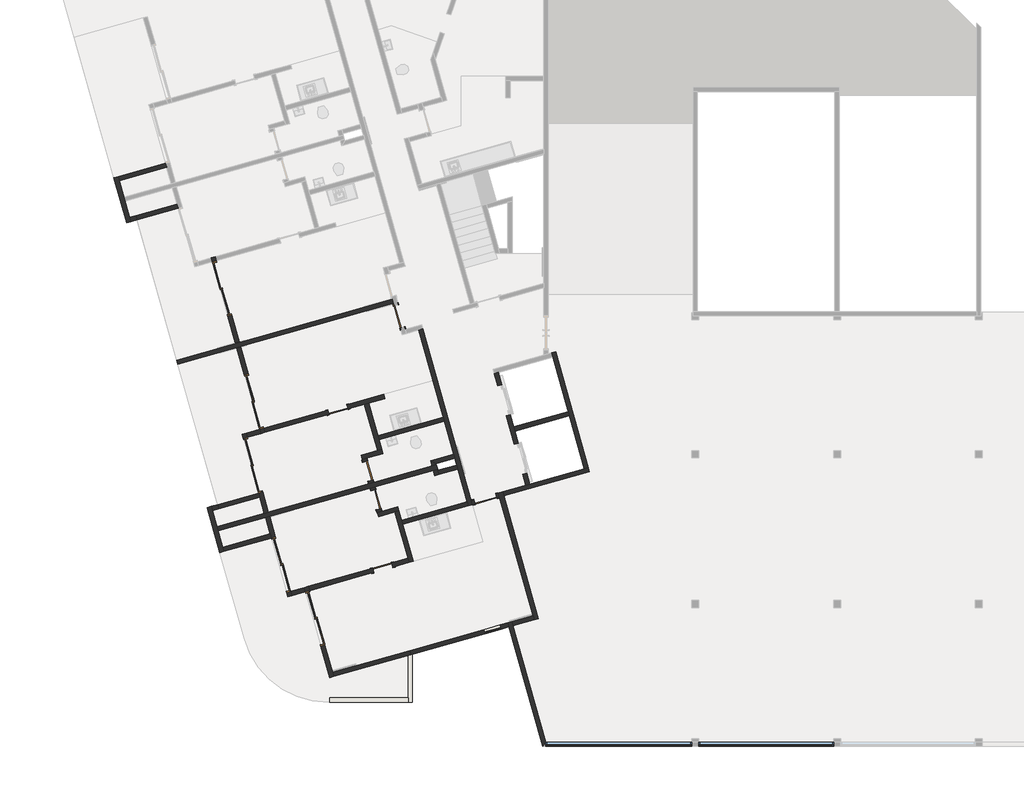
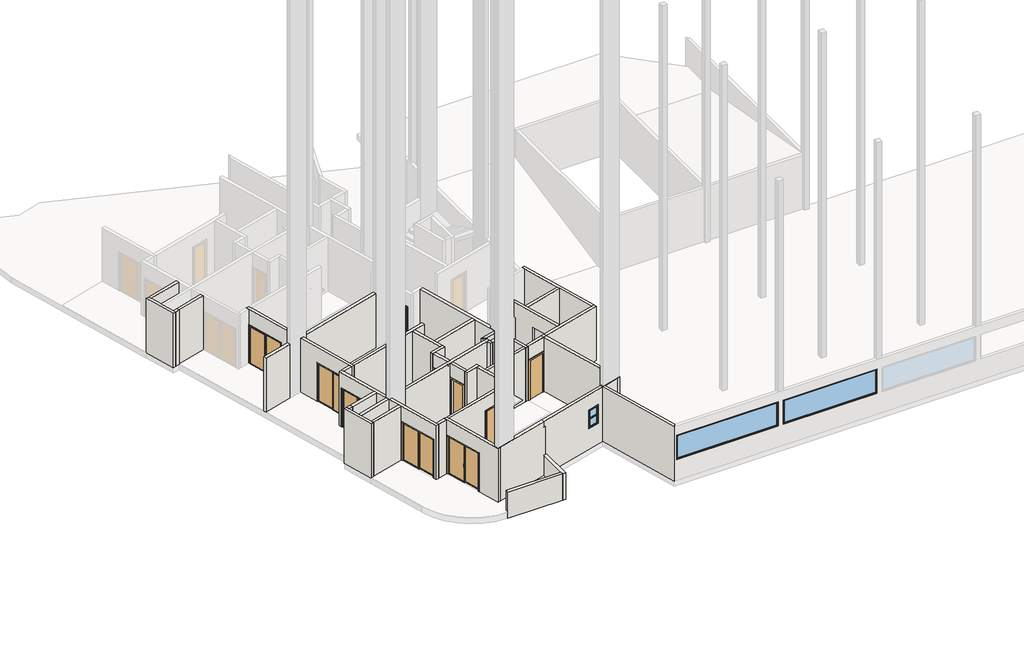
# One storey, part 1 of 4: 44 walls, 12 doors, 3 windows.
"""IFC4 building model written with IfcOpenShell, lengths in millimetres."""

from ifc_helpers import new_model, si_unit, frame, origin, place, context, project, spatial, polyline, outline, extrude, faceted_brep, transform, mapped, element, save
from components import p2_80cm_9d4be4ef, p2_80cm_083652d6, p3_70cm_ef4d15e3, p3_70cm_0a698c7c, p4_correr_200cm_eaaa0877, p4_correr_200cm_830b8f20, bx_60cm_cef95a5c, m_fixo1_jf_4_75m_a83b1cd6, m_fixo1_jf_5_15m_51e2bce7

model = new_model("IFC4")

# Units and contexts
model_context = context("Model", 3, world=origin())
ifc_project = project(units=[si_unit("LENGTHUNIT", "METRE", prefix="MILLI")], contexts=[model_context])

# Site, building, storey
site = spatial("IfcSite", under=ifc_project)
building = spatial("IfcBuilding", under=site)
storey = spatial("IfcBuildingStorey", under=building, Name="Garagem 5", Elevation=36250.0)

# Doors
placement = place(None, origin())
p2_80cm_shape = p2_80cm_9d4be4ef(model_context)
element("IfcDoor", 1, ObjectType="M_Folha única1 : P2 - 80CM", at=placement, inside=storey, context=model_context, shape_type="MappedRepresentation", body=[
    mapped(p2_80cm_shape, transform((-77213.6668366, 12144.847648, 36250.0), x_axis=(0.9623628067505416, 0.2717679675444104, 0.0), y_axis=(-0.2717679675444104, 0.9623628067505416, 0.0), z_axis=(0.0, 0.0, 1.0))),
])
element("IfcDoor", 2, ObjectType="M_Folha única1 : P2 - 80CM", at=placement, inside=storey, context=model_context, shape_type="MappedRepresentation", body=[
    mapped(p2_80cm_shape, transform((-77213.6668366, 12144.847648, 36250.0), x_axis=(0.9623628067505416, 0.2717679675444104, 0.0), y_axis=(-0.2717679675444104, 0.9623628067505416, 0.0), z_axis=(0.0, 0.0, 1.0))),
])
p2_80cm_2_shape = p2_80cm_083652d6(model_context)
element("IfcDoor", 3, ObjectType="M_Folha única1 : P2 - 80CM", at=placement, inside=storey, context=model_context, shape_type="MappedRepresentation", body=[
    mapped(p2_80cm_2_shape, transform((-80253.8125149, 18586.8251325, 36250.0), x_axis=(-0.2717679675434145, 0.9623628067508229, 0.0), y_axis=(-0.9623628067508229, -0.2717679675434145, 0.0), z_axis=(0.0, 0.0, 1.0))),
])
p3_70cm_shape = p3_70cm_ef4d15e3(model_context)
element("IfcDoor", 4, ObjectType="M_Folha única1 : P3 - 70CM", at=placement, inside=storey, context=model_context, shape_type="MappedRepresentation", body=[
    mapped(p3_70cm_shape, transform((-80840.7851368, 9718.5269225, 36250.0), x_axis=(0.9623628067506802, 0.2717679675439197, 0.0), y_axis=(-0.2717679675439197, 0.9623628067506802, 0.0), z_axis=(0.0, 0.0, 1.0))),
])
element("IfcDoor", 5, ObjectType="M_Folha única1 : P3 - 70CM", at=placement, inside=storey, context=model_context, shape_type="MappedRepresentation", body=[
    mapped(p3_70cm_shape, transform((-81362.5862327, 13130.1209218, 36250.0), x_axis=(0.271767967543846, -0.9623628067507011, 0.0), y_axis=(0.9623628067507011, 0.271767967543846, 0.0), z_axis=(0.0, 0.0, 1.0))),
])
p3_70cm_2_shape = p3_70cm_0a698c7c(model_context)
element("IfcDoor", 6, ObjectType="M_Folha única1 : P3 - 70CM", at=placement, inside=storey, context=model_context, shape_type="MappedRepresentation", body=[
    mapped(p3_70cm_2_shape, transform((-81077.2298668, 12119.6399747, 36250.0), x_axis=(-0.27176796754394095, 0.9623628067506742, 0.0), y_axis=(-0.9623628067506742, -0.27176796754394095, 0.0), z_axis=(0.0, 0.0, 1.0))),
])
element("IfcDoor", 7, ObjectType="M_Folha única1 : P3 - 70CM", at=placement, inside=storey, context=model_context, shape_type="MappedRepresentation", body=[
    mapped(p3_70cm_2_shape, transform((-82417.0393485, 15300.2312016, 36250.0), x_axis=(0.9623628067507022, 0.27176796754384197, 0.0), y_axis=(-0.27176796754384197, 0.9623628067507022, 0.0), z_axis=(0.0, 0.0, 1.0))),
])
p4_correr_200cm_shape = p4_correr_200cm_eaaa0877(model_context)
element("IfcDoor", 8, ObjectType="Porta de correr dupla envidraçada sem revestimento : P4 - CORRER - 200CM", at=placement, inside=storey, context=model_context, shape_type="MappedRepresentation", body=[
    mapped(p4_correr_200cm_shape, transform((-86511.4049952, 19573.3416554, 36250.0), x_axis=(0.2717679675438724, -0.9623628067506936, 0.0), y_axis=(0.9623628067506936, 0.2717679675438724, 0.0), z_axis=(0.0, 0.0, 1.0))),
])
element("IfcDoor", 9, ObjectType="Porta de correr dupla envidraçada sem revestimento : P4 - CORRER - 200CM", at=placement, inside=storey, context=model_context, shape_type="MappedRepresentation", body=[
    mapped(p4_correr_200cm_shape, transform((-84429.028315, 9822.2616509, 36250.0), x_axis=(-0.27176796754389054, 0.9623628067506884, 0.0), y_axis=(-0.9623628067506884, -0.27176796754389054, 0.0), z_axis=(0.0, 0.0, 1.0))),
])
element("IfcDoor", 10, ObjectType="Porta de correr dupla envidraçada sem revestimento : P4 - CORRER - 200CM", at=placement, inside=storey, context=model_context, shape_type="MappedRepresentation", body=[
    mapped(p4_correr_200cm_shape, transform((-83223.012588, 7928.7516937, 36250.0), x_axis=(-0.2717679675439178, 0.9623628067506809, 0.0), y_axis=(-0.9623628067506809, -0.2717679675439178, 0.0), z_axis=(0.0, 0.0, 1.0))),
])
p4_correr_200cm_2_shape = p4_correr_200cm_830b8f20(model_context)
element("IfcDoor", 11, ObjectType="Porta de correr dupla envidraçada sem revestimento : P4 - CORRER - 200CM", at=placement, inside=storey, context=model_context, shape_type="MappedRepresentation", body=[
    mapped(p4_correr_200cm_2_shape, transform((-85383.5679299, 15579.5360073, 36250.0), x_axis=(-0.2717679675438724, 0.9623628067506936, 0.0), y_axis=(-0.9623628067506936, -0.2717679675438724, 0.0), z_axis=(0.0, 0.0, 1.0))),
])
element("IfcDoor", 12, ObjectType="Porta de correr dupla envidraçada sem revestimento : P4 - CORRER - 200CM", at=placement, inside=storey, context=model_context, shape_type="MappedRepresentation", body=[
    mapped(p4_correr_200cm_2_shape, transform((-85420.9813965, 13334.8858955, 36250.0), x_axis=(-0.27176796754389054, 0.9623628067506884, 0.0), y_axis=(-0.9623628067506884, -0.27176796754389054, 0.0), z_axis=(0.0, 0.0, 1.0))),
])

# Walls
element("IfcWall", 13, ObjectType="Básica .15 -  Interna", at=placement, inside=storey, context=model_context, shape_type="Brep", body=[
    faceted_brep([(-75344.9919691, 7919.3931149, 36250.0), (-76608.5136097, 12393.6740374, 36250.0), (-76608.5136097, 12393.6740374, 39150.0), (-75344.9919691, 7919.3931149, 39150.0), (-75489.3463901, 7878.6279198, 36250.0), (-75489.3463901, 7878.6279198, 39150.0), (-75530.1115852, 8022.9823408, 39150.0), (-76712.1028356, 12208.5544213, 39150.0), (-76752.8680308, 12352.9088423, 39150.0), (-76752.8680308, 12352.9088423, 36250.0), (-76712.1028356, 12208.5544213, 36250.0), (-75530.1115852, 8022.9823408, 36250.0)], [[[0, 1, 2, 3]], [[4, 5, 6, 7, 8, 9, 10, 11]], [[1, 0, 4, 11, 10, 9]], [[3, 2, 8, 7, 6, 5]], [[0, 3, 5, 4]], [[2, 1, 9, 8]]]),
])
element("IfcWall", 14, ObjectType="Básica .15 -  Interna", at=placement, inside=storey, context=model_context, shape_type="Brep", body=[
    faceted_brep([(-79571.9228624, 18103.967491, 36250.0), (-78702.2653663, 15024.4065094, 36250.0), (-78661.5001712, 14880.0520884, 36250.0), (-78335.3786101, 13725.2167203, 36250.0), (-78294.613415, 13580.8622993, 36250.0), (-78226.6714231, 13340.2715976, 36250.0), (-78185.906228, 13195.9171766, 36250.0), (-77818.8200634, 11896.0212586, 36250.0), (-77818.8200634, 11896.0212586, 39150.0), (-78185.906228, 13195.9171766, 39150.0), (-78226.6714231, 13340.2715976, 39150.0), (-78294.613415, 13580.8622993, 39150.0), (-78335.3786101, 13725.2167203, 39150.0), (-78661.5001712, 14880.0520884, 39150.0), (-78702.2653663, 15024.4065094, 39150.0), (-79571.9228624, 18103.967491, 39150.0), (-79427.5684414, 18144.7326862, 36250.0), (-79427.5684414, 18144.7326862, 39150.0), (-77715.2308375, 12081.1408747, 39150.0), (-77674.4656424, 11936.7864537, 39150.0), (-77674.4656424, 11936.7864537, 36250.0), (-77715.2308375, 12081.1408747, 36250.0)], [[[0, 1, 2, 3, 4, 5, 6, 7, 8, 9, 10, 11, 12, 13, 14, 15]], [[16, 17, 18, 19, 20, 21]], [[7, 6, 5, 4, 3, 2, 1, 0, 16, 21, 20]], [[15, 14, 13, 12, 11, 10, 9, 8, 19, 18, 17]], [[0, 15, 17, 16]], [[8, 7, 20, 19]]]),
])
element("IfcWall", 15, ObjectType="Básica .15 -  Interna", at=placement, inside=storey, context=model_context, shape_type="Brep", body=[
    faceted_brep([(-85017.5646639, 11630.3683862, 39150.0), (-85180.6254444, 12207.7860702, 39150.0), (-85221.3906395, 12352.1404912, 39150.0), (-85805.6917697, 14421.2205257, 39150.0), (-85805.6917697, 14421.2205257, 36250.0), (-85764.9265746, 14276.8661047, 36250.0), (-85764.9265746, 14276.8661047, 38350.0), (-85221.3906395, 12352.1404912, 38350.0), (-85221.3906395, 12352.1404912, 36250.0), (-85180.6254444, 12207.7860702, 36250.0), (-85017.5646639, 11630.3683862, 36250.0), (-85661.3373487, 14461.9857209, 39150.0), (-85620.5721536, 14317.6312998, 39150.0), (-84873.2102428, 11671.1335813, 39150.0), (-84873.2102428, 11671.1335813, 36250.0), (-85077.0362185, 12392.9056863, 36250.0), (-85077.0362185, 12392.9056863, 38350.0), (-85620.5721536, 14317.6312998, 38350.0), (-85620.5721536, 14317.6312998, 36250.0), (-85661.3373487, 14461.9857209, 36250.0)], [[[0, 1, 2, 3, 4, 5, 6, 7, 8, 9, 10]], [[11, 12, 13, 14, 15, 16, 17, 18, 19]], [[4, 19, 18, 5]], [[14, 10, 9, 8, 15]], [[3, 2, 1, 0, 13, 12, 11]], [[4, 3, 11, 19]], [[0, 10, 14, 13]], [[17, 6, 5, 18]], [[6, 17, 16, 7]], [[7, 16, 15, 8]]]),
])
element("IfcWall", 16, ObjectType="Básica .15 -  Interna", at=placement, inside=storey, context=model_context, shape_type="Brep", body=[
    faceted_brep([(-82710.8886682, 5839.2890616, 39150.0), (-83566.957766, 8870.7319029, 39150.0), (-83607.7229611, 9015.0863239, 39150.0), (-83607.7229611, 9015.0863239, 36250.0), (-83566.957766, 8870.7319029, 36250.0), (-83566.957766, 8870.7319029, 38350.0), (-83023.4218309, 6946.0062894, 38350.0), (-83023.4218309, 6946.0062894, 36250.0), (-82710.8886682, 5839.2890616, 36250.0), (-83463.3685401, 9055.851519, 39150.0), (-83422.603345, 8911.497098, 39150.0), (-82607.2994424, 6024.4086777, 39150.0), (-82566.5342472, 5880.0542567, 39150.0), (-82566.5342472, 5880.0542567, 36250.0), (-82607.2994424, 6024.4086777, 36250.0), (-82879.0674099, 6986.7714845, 36250.0), (-82879.0674099, 6986.7714845, 38350.0), (-83422.603345, 8911.497098, 38350.0), (-83422.603345, 8911.497098, 36250.0), (-83463.3685401, 9055.851519, 36250.0)], [[[0, 1, 2, 3, 4, 5, 6, 7, 8]], [[9, 10, 11, 12, 13, 14, 15, 16, 17, 18, 19]], [[3, 19, 18, 4]], [[13, 8, 7, 15, 14]], [[2, 1, 0, 12, 11, 10, 9]], [[3, 2, 9, 19]], [[0, 8, 13, 12]], [[17, 5, 4, 18]], [[5, 17, 16, 6]], [[6, 16, 15, 7]]]),
])
element("IfcWall", 17, ObjectType="Básica .15 -  Interna", at=placement, inside=storey, context=model_context, shape_type="Brep", body=[
    faceted_brep([(-86046.8404698, 17652.2925145, 36250.0), (-86046.8404698, 17652.2925145, 39150.0), (-86855.3501733, 20515.3218646, 39150.0), (-86896.1153684, 20659.6762856, 39150.0), (-86896.1153684, 20659.6762856, 36250.0), (-86855.3501733, 20515.3218646, 36250.0), (-86855.3501733, 20515.3218646, 38350.0), (-86311.8142382, 18590.596251, 38350.0), (-86311.8142382, 18590.596251, 36250.0), (-85902.4860488, 17693.0577096, 39150.0), (-85902.4860488, 17693.0577096, 36250.0), (-86167.4598172, 18631.3614462, 36250.0), (-86167.4598172, 18631.3614462, 38350.0), (-86710.9957523, 20556.0870597, 38350.0), (-86710.9957523, 20556.0870597, 36250.0), (-86751.7609474, 20700.4414807, 36250.0), (-86751.7609474, 20700.4414807, 39150.0), (-86710.9957523, 20556.0870597, 39150.0)], [[[0, 1, 2, 3, 4, 5, 6, 7, 8]], [[9, 10, 11, 12, 13, 14, 15, 16, 17]], [[10, 0, 8, 11]], [[4, 15, 14, 5]], [[1, 0, 10, 9]], [[3, 2, 1, 9, 17, 16]], [[4, 3, 16, 15]], [[7, 12, 11, 8]], [[12, 7, 6, 13]], [[13, 6, 5, 14]]]),
])
element("IfcWall", 18, ObjectType="Básica .15 - Externa", at=placement, inside=storey, context=model_context, shape_type="Brep", body=[
    faceted_brep([(-79945.4990038, 6620.2256515, 35950.0), (-79945.4990038, 5119.4122055, 35950.0), (-79945.4990038, 4969.4122055, 35950.0), (-79945.4990038, 4969.4122055, 37350.0), (-79945.4990038, 5119.4122055, 37350.0), (-79945.4990038, 6620.2256515, 37350.0), (-79795.4990038, 6662.5851389, 35950.0), (-79795.4990038, 6662.5851389, 37350.0), (-79795.4990038, 4969.4122055, 37350.0), (-79795.4990038, 4969.4122055, 35950.0)], [[[0, 1, 2, 3, 4, 5]], [[6, 7, 8, 9]], [[2, 1, 0, 6, 9]], [[5, 4, 3, 8, 7]], [[3, 2, 9, 8]], [[0, 5, 7, 6]]]),
])
element("IfcWall", 19, ObjectType="Básica .15 - Externa", at=placement, inside=storey, context=model_context, shape_type="SweptSolid", body=[
    extrude(outline(polyline([(-82713.5540687, 5119.4122055), (-79945.4990038, 5119.4122055), (-79945.4990038, 4969.4122055), (-82713.5540687, 4969.4122055), (-82713.5540687, 5119.4122055)])), frame((0.0, 0.0, 35950.0), z_axis=(0.0, 0.0, 1.0), x_axis=(1.0, 0.0, 0.0)), (0.0, 0.0, 1.0), 1400.0),
])
element("IfcWall", 20, ObjectType="Básica .15 -  Interna", at=placement, inside=storey, context=model_context, shape_type="Brep", body=[
    faceted_brep([(-76483.167581, 15077.4768805, 36250.0), (-76197.8112151, 14066.9959334, 36250.0), (-76197.8112151, 14066.9959334, 38375.0), (-75898.8664508, 13008.396846, 38375.0), (-75898.8664508, 13008.396846, 36250.0), (-75790.505224, 12624.6768098, 36250.0), (-75790.505224, 12624.6768098, 39150.0), (-76904.7538909, 16570.3643175, 39150.0), (-76904.7538909, 16570.3643175, 36250.0), (-76782.1123453, 16136.075968, 36250.0), (-76782.1123453, 16136.075968, 38375.0), (-76483.167581, 15077.4768805, 38375.0), (-76053.4567941, 14107.7611286, 38375.0), (-76053.4567941, 14107.7611286, 36250.0), (-76176.0983397, 14542.0494781, 36250.0), (-76216.8635348, 14686.4038991, 36250.0), (-76338.81316, 15118.2420757, 36250.0), (-76338.81316, 15118.2420757, 38375.0), (-76637.7579243, 16176.8411631, 38375.0), (-76637.7579243, 16176.8411631, 36250.0), (-76760.3994699, 16611.1295126, 36250.0), (-76760.3994699, 16611.1295126, 39150.0), (-76216.8635348, 14686.4038991, 39150.0), (-76176.0983397, 14542.0494781, 39150.0), (-75646.150803, 12665.442005, 39150.0), (-75646.150803, 12665.442005, 36250.0), (-75754.5120298, 13049.1620412, 36250.0), (-75754.5120298, 13049.1620412, 38375.0)], [[[0, 1, 2, 3, 4, 5, 6, 7, 8, 9, 10, 11]], [[12, 13, 14, 15, 16, 17, 18, 19, 20, 21, 22, 23, 24, 25, 26, 27]], [[9, 8, 20, 19]], [[26, 25, 5, 4]], [[16, 15, 14, 13, 1, 0]], [[7, 6, 24, 23, 22, 21]], [[8, 7, 21, 20]], [[4, 3, 27, 26]], [[2, 1, 13, 12]], [[3, 2, 12, 27]], [[19, 18, 10, 9]], [[17, 16, 0, 11]], [[18, 17, 11, 10]], [[6, 5, 25, 24]]]),
])
element("IfcWall", 21, ObjectType="Básica .15 -  Interna", at=placement, inside=storey, context=model_context, shape_type="SweptSolid", body=[
    extrude(outline(polyline([(-74256.1845402, 15084.2265734), (-76176.0983397, 14542.0494781), (-76216.8635348, 14686.4038991), (-74296.9497354, 15228.5809944), (-74256.1845402, 15084.2265734)])), frame((0.0, 0.0, 36250.0), z_axis=(0.0, 0.0, 1.0), x_axis=(1.0, 0.0, 0.0)), (0.0, 0.0, 1.0), 2900.0),
])
element("IfcWall", 22, ObjectType="Básica .15 -  Interna", at=placement, inside=storey, context=model_context, shape_type="Brep", body=[
    faceted_brep([(-82566.5342472, 5880.0542567, 36250.0), (-79850.1164062, 6647.1613711, 36250.0), (-79850.1164062, 6647.1613711, 38850.0), (-79945.4990038, 6620.2256515, 38850.0), (-79945.4990038, 6620.2256515, 39150.0), (-82566.5342472, 5880.0542567, 39150.0), (-82607.2994424, 6024.4086777, 36250.0), (-82607.2994424, 6024.4086777, 39150.0), (-79945.4990038, 6776.0920243, 39150.0), (-79945.4990038, 6776.0920243, 38850.0), (-79890.8816014, 6791.5157921, 38850.0), (-79890.8816014, 6791.5157921, 36250.0)], [[[0, 1, 2, 3, 4, 5]], [[6, 7, 8, 9, 10, 11]], [[1, 0, 6, 11]], [[5, 4, 8, 7]], [[0, 5, 7, 6]], [[1, 11, 10, 2]], [[9, 3, 2, 10]], [[4, 3, 9, 8]]]),
])
element("IfcWall", 23, ObjectType="Básica .15 -  Interna", at=placement, inside=storey, context=model_context, shape_type="Brep", body=[
    faceted_brep([(-85221.3906395, 12352.1404912, 36250.0), (-86668.7560772, 11943.4094383, 36250.0), (-86668.7560772, 11943.4094383, 39150.0), (-85221.3906395, 12352.1404912, 39150.0), (-85221.3906395, 12352.1404912, 38350.0), (-85180.6254444, 12207.7860702, 36250.0), (-85180.6254444, 12207.7860702, 39150.0), (-86627.9908821, 11799.0550173, 39150.0), (-86627.9908821, 11799.0550173, 36250.0)], [[[0, 1, 2, 3, 4]], [[5, 6, 7, 8]], [[1, 0, 5, 8]], [[2, 1, 8, 7]], [[3, 2, 7, 6]], [[0, 4, 3, 6, 5]]]),
])
element("IfcWall", 24, ObjectType="Básica .15 - Externa", at=placement, inside=storey, context=model_context, shape_type="Brep", body=[
    faceted_brep([(-86444.4738537, 10292.215871, 36250.0), (-86485.2390488, 10436.570292, 36250.0), (-86648.2998293, 11013.987976, 36250.0), (-86689.0650245, 11158.342397, 36250.0), (-86852.125805, 11735.7600811, 36250.0), (-86892.8910001, 11880.1145021, 36250.0), (-86892.8910001, 11880.1145021, 39150.0), (-86852.125805, 11735.7600811, 39150.0), (-86689.0650245, 11158.342397, 39150.0), (-86648.2998293, 11013.987976, 39150.0), (-86485.2390488, 10436.570292, 39150.0), (-86444.4738537, 10292.215871, 39150.0), (-86588.8282747, 10251.4506758, 36250.0), (-86588.8282747, 10251.4506758, 39150.0), (-87037.2454211, 11839.349307, 39150.0), (-87037.2454211, 11839.349307, 36250.0)], [[[0, 1, 2, 3, 4, 5, 6, 7, 8, 9, 10, 11]], [[12, 13, 14, 15]], [[5, 4, 3, 2, 1, 0, 12, 15]], [[11, 10, 9, 8, 7, 6, 14, 13]], [[6, 5, 15, 14]], [[0, 11, 13, 12]]]),
])
element("IfcWall", 25, ObjectType="Básica .15 -  Interna", at=placement, inside=storey, context=model_context, shape_type="Brep", body=[
    faceted_brep([(-86444.4738537, 10292.215871, 36250.0), (-84772.9734931, 10764.2418601, 36250.0), (-84772.9734931, 10764.2418601, 38350.0), (-84772.9734931, 10764.2418601, 39150.0), (-86444.4738537, 10292.215871, 39150.0), (-86485.2390488, 10436.570292, 36250.0), (-86485.2390488, 10436.570292, 39150.0), (-84813.7386882, 10908.5962811, 39150.0), (-84813.7386882, 10908.5962811, 36250.0)], [[[0, 1, 2, 3, 4]], [[5, 6, 7, 8]], [[1, 0, 5, 8]], [[4, 3, 7, 6]], [[0, 4, 6, 5]], [[3, 2, 1, 8, 7]]]),
])
element("IfcWall", 26, ObjectType="Básica .15 - Externa", at=placement, inside=storey, context=model_context, shape_type="Brep", body=[
    faceted_brep([(-89732.866261, 21936.8058326, 36250.0), (-89773.6314561, 22081.1602536, 36250.0), (-89936.6922366, 22658.5779377, 36250.0), (-89977.4574318, 22802.9323587, 36250.0), (-90140.5182123, 23380.3500428, 36250.0), (-90181.2834074, 23524.7044638, 36250.0), (-90181.2834074, 23524.7044638, 39150.0), (-90140.5182123, 23380.3500428, 39150.0), (-89977.4574318, 22802.9323587, 39150.0), (-89936.6922366, 22658.5779377, 39150.0), (-89773.6314561, 22081.1602536, 39150.0), (-89732.866261, 21936.8058326, 39150.0), (-89877.220682, 21896.0406375, 36250.0), (-89877.220682, 21896.0406375, 39150.0), (-90325.6378284, 23483.9392686, 39150.0), (-90325.6378284, 23483.9392686, 36250.0)], [[[0, 1, 2, 3, 4, 5, 6, 7, 8, 9, 10, 11]], [[12, 13, 14, 15]], [[5, 4, 3, 2, 1, 0, 12, 15]], [[11, 10, 9, 8, 7, 6, 14, 13]], [[0, 11, 13, 12]], [[6, 5, 15, 14]]]),
])
element("IfcWall", 27, ObjectType="Básica .15 -  Interna", at=placement, inside=storey, context=model_context, shape_type="Brep", body=[
    faceted_brep([(-88102.1310955, 22553.1862428, 36250.0), (-89549.4965332, 22144.4551899, 36250.0), (-89549.4965332, 22144.4551899, 39150.0), (-88102.1310955, 22553.1862428, 39150.0), (-88061.3659003, 22408.8318218, 36250.0), (-88061.3659003, 22408.8318218, 38350.0), (-88061.3659003, 22408.8318218, 39150.0), (-89508.731338, 22000.1007688, 39150.0), (-89508.731338, 22000.1007688, 36250.0)], [[[0, 1, 2, 3]], [[4, 5, 6, 7, 8]], [[1, 0, 4, 8]], [[2, 1, 8, 7]], [[3, 2, 7, 6]], [[0, 3, 6, 5, 4]]]),
])
element("IfcWall", 28, ObjectType="Básica .15 -  Interna", at=placement, inside=storey, context=model_context, shape_type="Brep", body=[
    faceted_brep([(-90140.5182123, 23380.3500428, 36250.0), (-88469.0178517, 23852.3760319, 36250.0), (-88469.0178517, 23852.3760319, 39150.0), (-90140.5182123, 23380.3500428, 39150.0), (-90181.2834074, 23524.7044638, 36250.0), (-90181.2834074, 23524.7044638, 39150.0), (-88509.7830468, 23996.7304529, 39150.0), (-88509.7830468, 23996.7304529, 38350.0), (-88509.7830468, 23996.7304529, 36250.0)], [[[0, 1, 2, 3]], [[4, 5, 6, 7, 8]], [[1, 0, 4, 8]], [[3, 2, 6, 5]], [[0, 3, 5, 4]], [[2, 1, 8, 7, 6]]]),
])
element("IfcWall", 29, ObjectType="Básica .15 -  Interna", at=placement, inside=storey, context=model_context, shape_type="Brep", body=[
    faceted_brep([(-83607.7229611, 9015.0863239, 36250.0), (-84085.083137, 8880.2814417, 36250.0), (-84085.083137, 8880.2814417, 38350.0), (-84085.083137, 8880.2814417, 39150.0), (-83607.7229611, 9015.0863239, 39150.0), (-83566.957766, 8870.7319029, 36250.0), (-83566.957766, 8870.7319029, 38350.0), (-83566.957766, 8870.7319029, 39150.0), (-84044.3179418, 8735.9270207, 39150.0), (-84044.3179418, 8735.9270207, 36250.0)], [[[0, 1, 2, 3, 4]], [[5, 6, 7, 8, 9]], [[1, 0, 5, 9]], [[4, 3, 8, 7]], [[3, 2, 1, 9, 8]], [[0, 4, 7, 6, 5]]]),
])
element("IfcWall", 30, ObjectType="Básica .15 -  Interna", at=placement, inside=storey, context=model_context, shape_type="Brep", body=[
    faceted_brep([(-85183.9771729, 14596.790603, 36250.0), (-85661.3373487, 14461.9857209, 36250.0), (-85661.3373487, 14461.9857209, 39150.0), (-85183.9771729, 14596.790603, 39150.0), (-85183.9771729, 14596.790603, 38350.0), (-85143.2119778, 14452.436182, 36250.0), (-85143.2119778, 14452.436182, 39150.0), (-85620.5721536, 14317.6312998, 39150.0), (-85620.5721536, 14317.6312998, 38350.0), (-85620.5721536, 14317.6312998, 36250.0)], [[[0, 1, 2, 3, 4]], [[5, 6, 7, 8, 9]], [[1, 0, 5, 9]], [[3, 2, 7, 6]], [[2, 1, 9, 8, 7]], [[0, 4, 3, 6, 5]]]),
])
element("IfcWall", 31, ObjectType="Básica .15 -  Interna", at=placement, inside=storey, context=model_context, shape_type="Brep", body=[
    faceted_brep([(-85143.2119778, 14452.436182, 39150.0), (-85183.9771729, 14596.790603, 39150.0), (-85992.4868763, 17459.8199531, 39150.0), (-85992.4868763, 17459.8199531, 36250.0), (-85727.513108, 16521.5162165, 36250.0), (-85727.513108, 16521.5162165, 38350.0), (-85183.9771729, 14596.790603, 38350.0), (-85183.9771729, 14596.790603, 36250.0), (-85143.2119778, 14452.436182, 36250.0), (-85848.1324553, 17500.5851482, 39150.0), (-85039.6227519, 14637.5557982, 39150.0), (-84998.8575568, 14493.2013772, 39150.0), (-84998.8575568, 14493.2013772, 36250.0), (-85039.6227519, 14637.5557982, 36250.0), (-85039.6227519, 14637.5557982, 38350.0), (-85583.158687, 16562.2814117, 38350.0), (-85583.158687, 16562.2814117, 36250.0), (-85848.1324553, 17500.5851482, 36250.0)], [[[0, 1, 2, 3, 4, 5, 6, 7, 8]], [[9, 10, 11, 12, 13, 14, 15, 16, 17]], [[3, 17, 16, 4]], [[12, 8, 7, 13]], [[2, 1, 0, 11, 10, 9]], [[3, 2, 9, 17]], [[0, 8, 12, 11]], [[15, 5, 4, 16]], [[5, 15, 14, 6]], [[6, 14, 13, 7]]]),
])
element("IfcWall", 32, ObjectType="Básica .15 -  Interna", at=placement, inside=storey, context=model_context, shape_type="SweptSolid", body=[
    extrude(outline(polyline([(-80461.8737092, 19047.6239383), (-88068.36111, 16899.5778931), (-88109.1263052, 17043.9323141), (-80502.6389043, 19191.9783593), (-80461.8737092, 19047.6239383)])), frame((0.0, 0.0, 36250.0), z_axis=(0.0, 0.0, 1.0), x_axis=(1.0, 0.0, 0.0)), (0.0, 0.0, 1.0), 2900.0),
])
element("IfcWall", 33, ObjectType="Básica .15 -  Interna", at=placement, inside=storey, context=model_context, shape_type="Brep", body=[
    faceted_brep([(-78945.0553533, 13345.2242614, 36250.0), (-81168.1134369, 12717.4402563, 36250.0), (-81312.4678579, 12676.6750612, 36250.0), (-84873.2102428, 11671.1335813, 36250.0), (-85017.5646639, 11630.3683862, 36250.0), (-86689.0650245, 11158.342397, 36250.0), (-86689.0650245, 11158.342397, 39150.0), (-85017.5646639, 11630.3683862, 39150.0), (-84873.2102428, 11671.1335813, 39150.0), (-81312.4678579, 12676.6750612, 39150.0), (-81168.1134369, 12717.4402563, 39150.0), (-78945.0553533, 13345.2242614, 39150.0), (-78904.2901581, 13200.8698403, 36250.0), (-78904.2901581, 13200.8698403, 39150.0), (-81127.3482417, 12573.0858353, 39150.0), (-81271.7026627, 12532.3206402, 39150.0), (-84832.4450477, 11526.7791603, 39150.0), (-84976.7994687, 11486.0139651, 39150.0), (-86648.2998293, 11013.987976, 39150.0), (-86648.2998293, 11013.987976, 36250.0), (-84976.7994687, 11486.0139651, 36250.0), (-84832.4450477, 11526.7791603, 36250.0), (-81271.7026627, 12532.3206402, 36250.0), (-81127.3482417, 12573.0858353, 36250.0)], [[[0, 1, 2, 3, 4, 5, 6, 7, 8, 9, 10, 11]], [[12, 13, 14, 15, 16, 17, 18, 19, 20, 21, 22, 23]], [[5, 4, 3, 2, 1, 0, 12, 23, 22, 21, 20, 19]], [[11, 10, 9, 8, 7, 6, 18, 17, 16, 15, 14, 13]], [[0, 11, 13, 12]], [[6, 5, 19, 18]]]),
])
element("IfcWall", 34, ObjectType="Básica .15 -  Interna", at=placement, inside=storey, context=model_context, shape_type="Brep", body=[
    faceted_brep([(-84188.6723628, 8695.1618256, 39150.0), (-84772.9734931, 10764.2418601, 39150.0), (-84813.7386882, 10908.5962811, 39150.0), (-84976.7994687, 11486.0139651, 39150.0), (-84976.7994687, 11486.0139651, 36250.0), (-84813.7386882, 10908.5962811, 36250.0), (-84772.9734931, 10764.2418601, 36250.0), (-84772.9734931, 10764.2418601, 38350.0), (-84229.437558, 8839.5162466, 38350.0), (-84229.437558, 8839.5162466, 36250.0), (-84188.6723628, 8695.1618256, 36250.0), (-84832.4450477, 11526.7791603, 39150.0), (-84085.083137, 8880.2814417, 39150.0), (-84044.3179418, 8735.9270207, 39150.0), (-84044.3179418, 8735.9270207, 36250.0), (-84085.083137, 8880.2814417, 36250.0), (-84085.083137, 8880.2814417, 38350.0), (-84628.6190721, 10805.0070552, 38350.0), (-84628.6190721, 10805.0070552, 36250.0), (-84832.4450477, 11526.7791603, 36250.0)], [[[0, 1, 2, 3, 4, 5, 6, 7, 8, 9, 10]], [[11, 12, 13, 14, 15, 16, 17, 18, 19]], [[14, 10, 9, 15]], [[4, 19, 18, 6, 5]], [[3, 2, 1, 0, 13, 12, 11]], [[0, 10, 14, 13]], [[4, 3, 11, 19]], [[17, 7, 6, 18]], [[7, 17, 16, 8]], [[8, 16, 15, 9]]]),
])
element("IfcWall", 35, ObjectType="Básica .15 - Externa", at=placement, inside=storey, context=model_context, shape_type="Brep", body=[
    faceted_brep([(-79850.1164062, 6647.1613711, 38850.0), (-79850.1164062, 6647.1613711, 36250.0), (-76385.7999624, 7625.4724948, 36250.0), (-76385.7999624, 7625.4724948, 39150.0), (-79850.1164062, 6647.1613711, 39150.0), (-79945.4990038, 6620.2256515, 39150.0), (-79945.4990038, 6620.2256515, 38850.0), (-76649.6431667, 7550.9640756, 37350.0), (-77227.0608508, 7387.9032951, 37350.0), (-77227.0608508, 7387.9032951, 38350.0), (-76649.6431667, 7550.9640756, 38350.0), (-79890.8816014, 6791.5157921, 36250.0), (-79890.8816014, 6791.5157921, 38850.0), (-79945.4990038, 6776.0920243, 38850.0), (-79945.4990038, 6776.0920243, 39150.0), (-79890.8816014, 6791.5157921, 39150.0), (-76426.5651575, 7769.8269158, 39150.0), (-76426.5651575, 7769.8269158, 36250.0), (-76690.4083619, 7695.3184966, 37350.0), (-76690.4083619, 7695.3184966, 38350.0), (-77267.8260459, 7532.2577161, 38350.0), (-77267.8260459, 7532.2577161, 37350.0)], [[[0, 1, 2, 3, 4, 5, 6], [7, 8, 9, 10]], [[11, 12, 13, 14, 15, 16, 17], [18, 19, 20, 21]], [[2, 1, 11, 17]], [[5, 4, 3, 16, 15, 14]], [[18, 21, 8, 7]], [[21, 20, 9, 8]], [[20, 19, 10, 9]], [[19, 18, 7, 10]], [[3, 2, 17, 16]], [[0, 12, 11, 1]], [[6, 13, 12, 0]], [[6, 5, 14, 13]]]),
])
element("IfcWall", 36, ObjectType="Básica .15 - Externa", at=placement, inside=storey, context=model_context, shape_type="SweptSolid", body=[
    extrude(outline(polyline([(-89773.6314561, 22081.1602536), (-89549.4965332, 22144.4551899), (-89508.731338, 22000.1007688), (-89732.866261, 21936.8058326), (-89773.6314561, 22081.1602536)])), frame((0.0, 0.0, 36250.0), z_axis=(0.0, 0.0, 1.0), x_axis=(1.0, 0.0, 0.0)), (0.0, 0.0, 1.0), 2900.0),
])
element("IfcWall", 37, ObjectType="Básica .15 - Externa", at=placement, inside=storey, context=model_context, shape_type="SweptSolid", body=[
    extrude(outline(polyline([(-86892.8910001, 11880.1145021), (-86668.7560772, 11943.4094383), (-86627.9908821, 11799.0550173), (-86852.125805, 11735.7600811), (-86892.8910001, 11880.1145021)])), frame((0.0, 0.0, 36250.0), z_axis=(0.0, 0.0, 1.0), x_axis=(1.0, 0.0, 0.0)), (0.0, 0.0, 1.0), 2900.0),
])
element("IfcWall", 38, ObjectType="Básica .15 -  Interna", at=placement, inside=storey, context=model_context, shape_type="SweptSolid", body=[
    extrude(outline(polyline([(-80169.4554031, 11388.8386864), (-77859.7846669, 12041.0818085), (-77819.0194718, 11896.7273875), (-80128.690208, 11244.4842654), (-80169.4554031, 11388.8386864)])), frame((0.0, 0.0, 36250.0), z_axis=(0.0, 0.0, 1.0), x_axis=(1.0, 0.0, 0.0)), (0.0, 0.0, 1.0), 2900.0),
])
element("IfcWall", 39, ObjectType="Básica .15 -  Interna", at=placement, inside=storey, context=model_context, shape_type="SweptSolid", body=[
    extrude(outline(polyline([(-78185.906228, 13195.9171766), (-78849.9365646, 13008.397279), (-78890.7017597, 13152.7517), (-78226.6714231, 13340.2715976), (-78185.906228, 13195.9171766)])), frame((0.0, 0.0, 36250.0), z_axis=(0.0, 0.0, 1.0), x_axis=(1.0, 0.0, 0.0)), (0.0, 0.0, 1.0), 2900.0),
])
element("IfcWall", 40, ObjectType="Básica .15 -  Interna", at=placement, inside=storey, context=model_context, shape_type="Brep", body=[
    faceted_brep([(-80986.3462968, 11521.8396931, 36250.0), (-80408.9286128, 11684.9004736, 36250.0), (-80264.5741917, 11725.6656688, 36250.0), (-80264.5741917, 11725.6656688, 39150.0), (-80408.9286128, 11684.9004736, 39150.0), (-80986.3462968, 11521.8396931, 39150.0), (-81027.1114919, 11666.1941141, 36250.0), (-81027.1114919, 11666.1941141, 39150.0), (-80882.7570709, 11706.9593092, 39150.0), (-80305.3393869, 11870.0200898, 39150.0), (-80305.3393869, 11870.0200898, 36250.0), (-80882.7570709, 11706.9593092, 36250.0)], [[[0, 1, 2, 3, 4, 5]], [[6, 7, 8, 9, 10, 11]], [[2, 1, 0, 6, 11, 10]], [[5, 4, 3, 9, 8, 7]], [[0, 5, 7, 6]], [[3, 2, 10, 9]]]),
])
element("IfcWall", 41, ObjectType="Básica .15 -  Interna", at=placement, inside=storey, context=model_context, shape_type="SweptSolid", body=[
    extrude(outline(polyline([(900.0, -2900.0), (0.0, -2900.0), (0.0, 0.0), (100.0, 0.0), (100.0, -2100.0), (800.0, -2100.0), (800.0, 0.0), (900.0, 0.0), (900.0, -2900.0)])), frame((-81271.7026627, 12532.3206402, 36250.0), z_axis=(0.9623628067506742, 0.271767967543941, 0.0), x_axis=(0.271767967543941, -0.9623628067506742, 0.0)), (0.0, 0.0, 1.0), 150.0),
])
element("IfcWall", 42, ObjectType="Básica .15 -  Interna", at=placement, inside=storey, context=model_context, shape_type="Brep", body=[
    faceted_brep([(-80408.9286128, 11684.9004736, 36250.0), (-79946.9230679, 10048.8837021, 36250.0), (-79906.1578728, 9904.5292811, 36250.0), (-79906.1578728, 9904.5292811, 39150.0), (-79946.9230679, 10048.8837021, 39150.0), (-80408.9286128, 11684.9004736, 39150.0), (-80264.5741917, 11725.6656688, 36250.0), (-80264.5741917, 11725.6656688, 39150.0), (-80169.4554031, 11388.8386864, 39150.0), (-80128.690208, 11244.4842654, 39150.0), (-79761.8034518, 9945.2944763, 39150.0), (-79761.8034518, 9945.2944763, 36250.0), (-80128.690208, 11244.4842654, 36250.0), (-80169.4554031, 11388.8386864, 36250.0)], [[[0, 1, 2, 3, 4, 5]], [[6, 7, 8, 9, 10, 11, 12, 13]], [[2, 1, 0, 6, 13, 12, 11]], [[5, 4, 3, 10, 9, 8, 7]], [[3, 2, 11, 10]], [[0, 5, 7, 6]]]),
])
element("IfcWall", 43, ObjectType="Básica .15 -  Interna", at=placement, inside=storey, context=model_context, shape_type="Brep", body=[
    faceted_brep([(-79946.9230679, 10048.8837021, 36250.0), (-80524.340752, 9885.8229216, 36250.0), (-80524.340752, 9885.8229216, 38350.0), (-81197.9947167, 9695.5853443, 38350.0), (-81197.9947167, 9695.5853443, 36250.0), (-83463.3685401, 9055.851519, 36250.0), (-83463.3685401, 9055.851519, 39150.0), (-79946.9230679, 10048.8837021, 39150.0), (-80483.5755569, 9741.4685006, 38350.0), (-80483.5755569, 9741.4685006, 36250.0), (-79906.1578728, 9904.5292811, 36250.0), (-79906.1578728, 9904.5292811, 39150.0), (-83422.603345, 8911.497098, 39150.0), (-83422.603345, 8911.497098, 38350.0), (-83422.603345, 8911.497098, 36250.0), (-81157.2295216, 9551.2309233, 36250.0), (-81157.2295216, 9551.2309233, 38350.0)], [[[0, 1, 2, 3, 4, 5, 6, 7]], [[8, 9, 10, 11, 12, 13, 14, 15, 16]], [[15, 14, 5, 4]], [[10, 9, 1, 0]], [[7, 6, 12, 11]], [[2, 1, 9, 8]], [[3, 2, 8, 16]], [[4, 3, 16, 15]], [[0, 7, 11, 10]], [[6, 5, 14, 13, 12]]]),
])
element("IfcWall", 44, ObjectType="Básica .15 -  Interna", at=placement, inside=storey, context=model_context, shape_type="Brep", body=[
    faceted_brep([(-79048.6445791, 13160.1046452, 36250.0), (-78994.2909856, 12967.6320839, 36250.0), (-78994.2909856, 12967.6320839, 39150.0), (-79048.6445791, 13160.1046452, 39150.0), (-78904.2901581, 13200.8698403, 36250.0), (-78904.2901581, 13200.8698403, 39150.0), (-78890.7017597, 13152.7517, 39150.0), (-78849.9365646, 13008.397279, 39150.0), (-78849.9365646, 13008.397279, 36250.0), (-78890.7017597, 13152.7517, 36250.0)], [[[0, 1, 2, 3]], [[4, 5, 6, 7, 8, 9]], [[1, 0, 4, 9, 8]], [[3, 2, 7, 6, 5]], [[0, 3, 5, 4]], [[2, 1, 8, 7]]]),
])
element("IfcWall", 45, ObjectType="Básica .15 -  Interna", at=placement, inside=storey, context=model_context, shape_type="SweptSolid", body=[
    extrude(outline(polyline([(-79143.7633678, 13496.9316276), (-78335.3786101, 13725.2167203), (-78294.613415, 13580.8622993), (-78958.6437516, 13393.3424017), (-79143.7633678, 13496.9316276)])), frame((0.0, 0.0, 36250.0), z_axis=(0.0, 0.0, 1.0), x_axis=(1.0, 0.0, 0.0)), (0.0, 0.0, 1.0), 2900.0),
])
element("IfcWall", 46, ObjectType="Básica .15 -  Interna", at=placement, inside=storey, context=model_context, shape_type="SweptSolid", body=[
    extrude(outline(polyline([(-79089.4097743, 13304.4590662), (-79143.7633678, 13496.9316276), (-78958.6437516, 13393.3424017), (-78945.0553533, 13345.2242614), (-79089.4097743, 13304.4590662)])), frame((0.0, 0.0, 36250.0), z_axis=(0.0, 0.0, 1.0), x_axis=(1.0, 0.0, 0.0)), (0.0, 0.0, 1.0), 2900.0),
])
element("IfcWall", 47, ObjectType="Básica .15 -  Interna", at=placement, inside=storey, context=model_context, shape_type="Brep", body=[
    faceted_brep([(-80876.0521187, 13890.981984, 36250.0), (-81020.4065397, 13850.2167888, 36250.0), (-81597.8242238, 13687.1560083, 36250.0), (-81597.8242238, 13687.1560083, 39150.0), (-81020.4065397, 13850.2167888, 39150.0), (-80876.0521187, 13890.981984, 39150.0), (-80835.2869236, 13746.6275629, 36250.0), (-80835.2869236, 13746.6275629, 39150.0), (-81412.7046076, 13583.5667824, 39150.0), (-81557.0590287, 13542.8015873, 39150.0), (-81557.0590287, 13542.8015873, 36250.0), (-81412.7046076, 13583.5667824, 36250.0)], [[[0, 1, 2, 3, 4, 5]], [[6, 7, 8, 9, 10, 11]], [[2, 1, 0, 6, 11, 10]], [[5, 4, 3, 9, 8, 7]], [[0, 5, 7, 6]], [[3, 2, 10, 9]]]),
])
element("IfcWall", 48, ObjectType="Básica .15 -  Interna", at=placement, inside=storey, context=model_context, shape_type="Brep", body=[
    faceted_brep([(-81482.4120846, 15486.2335603, 36250.0), (-81020.4065397, 13850.2167888, 36250.0), (-81020.4065397, 13850.2167888, 39150.0), (-81482.4120846, 15486.2335603, 39150.0), (-81338.0576635, 15526.9987554, 36250.0), (-81338.0576635, 15526.9987554, 39150.0), (-81011.9361025, 14372.1633873, 39150.0), (-80971.1709074, 14227.8089663, 39150.0), (-80876.0521187, 13890.981984, 39150.0), (-80876.0521187, 13890.981984, 36250.0), (-80971.1709074, 14227.8089663, 36250.0), (-81011.9361025, 14372.1633873, 36250.0)], [[[0, 1, 2, 3]], [[4, 5, 6, 7, 8, 9, 10, 11]], [[1, 0, 4, 11, 10, 9]], [[3, 2, 8, 7, 6, 5]], [[0, 3, 5, 4]], [[2, 1, 9, 8]]]),
])
element("IfcWall", 49, ObjectType="Básica .15 -  Interna", at=placement, inside=storey, context=model_context, shape_type="SweptSolid", body=[
    extrude(outline(polyline([(-81011.9361025, 14372.1633873), (-78702.2653663, 15024.4065094), (-78661.5001712, 14880.0520884), (-80971.1709074, 14227.8089663), (-81011.9361025, 14372.1633873)])), frame((0.0, 0.0, 36250.0), z_axis=(0.0, 0.0, 1.0), x_axis=(1.0, 0.0, 0.0)), (0.0, 0.0, 1.0), 2900.0),
])
element("IfcWall", 50, ObjectType="Básica .15 -  Interna", at=placement, inside=storey, context=model_context, shape_type="Brep", body=[
    faceted_brep([(-80801.4051746, 15834.413957, 36250.0), (-82100.5949637, 15467.5272008, 36250.0), (-82100.5949637, 15467.5272008, 38350.0), (-82774.2489285, 15277.2896235, 38350.0), (-82774.2489285, 15277.2896235, 36250.0), (-85039.6227519, 14637.5557982, 36250.0), (-85039.6227519, 14637.5557982, 38350.0), (-85039.6227519, 14637.5557982, 39150.0), (-80801.4051746, 15834.413957, 39150.0), (-82059.8297686, 15323.1727798, 38350.0), (-82059.8297686, 15323.1727798, 36250.0), (-81482.4120846, 15486.2335603, 36250.0), (-81338.0576635, 15526.9987554, 36250.0), (-80760.6399795, 15690.059536, 36250.0), (-80760.6399795, 15690.059536, 39150.0), (-81338.0576635, 15526.9987554, 39150.0), (-81482.4120846, 15486.2335603, 39150.0), (-84998.8575568, 14493.2013772, 39150.0), (-84998.8575568, 14493.2013772, 36250.0), (-82733.4837333, 15132.9352025, 36250.0), (-82733.4837333, 15132.9352025, 38350.0)], [[[0, 1, 2, 3, 4, 5, 6, 7, 8]], [[9, 10, 11, 12, 13, 14, 15, 16, 17, 18, 19, 20]], [[19, 18, 5, 4]], [[13, 12, 11, 10, 1, 0]], [[8, 7, 17, 16, 15, 14]], [[0, 8, 14, 13]], [[2, 1, 10, 9]], [[3, 2, 9, 20]], [[4, 3, 20, 19]], [[7, 6, 5, 18, 17]]]),
])
element("IfcWall", 51, ObjectType="Básica .15 -  Interna", at=placement, inside=storey, context=model_context, shape_type="SweptSolid", body=[
    extrude(outline(polyline([(-250.0, -2100.0), (-250.0, 0.0), (-150.0, 0.0), (-150.0, -2900.0), (-1050.0, -2900.0), (-1050.0, 0.0), (-950.0, 0.0), (-950.0, -2100.0), (-250.0, -2100.0)])), frame((-81271.7026627, 12532.3206402, 36250.0), z_axis=(0.9623628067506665, 0.2717679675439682, 0.0), x_axis=(0.2717679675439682, -0.9623628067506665, 0.0)), (0.0, 0.0, 1.0), 150.0),
])
element("IfcWall", 52, ObjectType="Básica .15 -  Interna", at=placement, inside=storey, context=model_context, shape_type="SweptSolid", body=[
    extrude(outline(polyline([(-1100.0, -2100.0), (-1100.0, 0.0), (-999.9999999, 0.0), (-999.9999999, -2900.0), (-2000.0, -2900.0), (-2000.0, 0.0), (-1900.0, 0.0), (-1900.0, -2100.0), (-1100.0, -2100.0)])), frame((-75749.7400289, 12480.3223888, 36250.0), z_axis=(-0.2717679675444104, 0.9623628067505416, 0.0), x_axis=(0.9623628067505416, 0.2717679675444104, 0.0)), (0.0, 0.0, 1.0), 150.0),
])
element("IfcWall", 53, ObjectType="Básica .15 - Externa", at=placement, inside=storey, context=model_context, shape_type="Brep", body=[
    faceted_brep([(-76426.5651575, 7769.8269158, 36250.0), (-76385.7999624, 7625.4724948, 36250.0), (-75195.6613336, 3411.0495751, 36250.0), (-75195.6613336, 3411.0495751, 39150.0), (-76385.7999624, 7625.4724948, 39150.0), (-76426.5651575, 7769.8269158, 39150.0), (-76282.2107365, 7810.5921109, 36250.0), (-76282.2107365, 7810.5921109, 39150.0), (-76241.4455414, 7666.2376899, 39150.0), (-75082.1544481, 3561.0495751, 39150.0), (-75082.1544481, 3561.0495751, 36250.0), (-76241.4455414, 7666.2376899, 36250.0)], [[[0, 1, 2, 3, 4, 5]], [[6, 7, 8, 9, 10, 11]], [[2, 1, 0, 6, 11, 10]], [[5, 4, 3, 9, 8, 7]], [[3, 2, 10, 9]], [[0, 5, 7, 6]]]),
])
element("IfcWall", 54, ObjectType="Básica .15 -  Interna", at=placement, inside=storey, context=model_context, shape_type="Brep", body=[
    faceted_brep([(-73581.8825825, 13248.3842954, 36250.0), (-73726.2370035, 13207.6191002, 36250.0), (-75646.150803, 12665.442005, 36250.0), (-75790.505224, 12624.6768098, 36250.0), (-76849.1043114, 12325.7320455, 36250.0), (-76849.1043114, 12325.7320455, 38350.0), (-77618.9945568, 12108.3176715, 38350.0), (-77618.9945568, 12108.3176715, 36250.0), (-77715.2308375, 12081.1408747, 36250.0), (-77715.2308375, 12081.1408747, 39150.0), (-75790.505224, 12624.6768098, 39150.0), (-75646.150803, 12665.442005, 39150.0), (-73726.2370035, 13207.6191002, 39150.0), (-73581.8825825, 13248.3842954, 39150.0), (-76808.3391163, 12181.3776245, 38350.0), (-76808.3391163, 12181.3776245, 36250.0), (-73541.1173874, 13104.0298743, 36250.0), (-73541.1173874, 13104.0298743, 39150.0), (-77674.4656424, 11936.7864537, 39150.0), (-77674.4656424, 11936.7864537, 36250.0), (-77578.2293617, 11963.9632505, 36250.0), (-77578.2293617, 11963.9632505, 38350.0)], [[[0, 1, 2, 3, 4, 5, 6, 7, 8, 9, 10, 11, 12, 13]], [[14, 15, 16, 17, 18, 19, 20, 21]], [[20, 19, 8, 7]], [[16, 15, 4, 3, 2, 1, 0]], [[13, 12, 11, 10, 9, 18, 17]], [[5, 4, 15, 14]], [[6, 5, 14, 21]], [[7, 6, 21, 20]], [[9, 8, 19, 18]], [[0, 13, 17, 16]]]),
])
element("IfcWall", 55, ObjectType="Básica .15 -  Interna", at=placement, inside=storey, context=model_context, shape_type="Brep", body=[
    faceted_brep([(-74881.2508656, 17297.6610289, 36250.0), (-74840.4856705, 17153.3066079, 36250.0), (-74296.9497354, 15228.5809944, 36250.0), (-74256.1845402, 15084.2265734, 36250.0), (-73726.2370035, 13207.6191002, 36250.0), (-73726.2370035, 13207.6191002, 39150.0), (-74256.1845402, 15084.2265734, 39150.0), (-74296.9497354, 15228.5809944, 39150.0), (-74840.4856705, 17153.3066079, 39150.0), (-74881.2508656, 17297.6610289, 39150.0), (-74736.8964446, 17338.426224, 36250.0), (-74736.8964446, 17338.426224, 39150.0), (-73581.8825825, 13248.3842954, 39150.0), (-73581.8825825, 13248.3842954, 36250.0)], [[[0, 1, 2, 3, 4, 5, 6, 7, 8, 9]], [[10, 11, 12, 13]], [[4, 3, 2, 1, 0, 10, 13]], [[9, 8, 7, 6, 5, 12, 11]], [[5, 4, 13, 12]], [[0, 9, 11, 10]]]),
])
element("IfcWall", 56, ObjectType="Básica .15 -  Interna", at=placement, inside=storey, context=model_context, shape_type="SweptSolid", body=[
    extrude(outline(polyline([(-75489.3463901, 7878.6279198), (-76241.4455414, 7666.2376899), (-76282.2107365, 7810.5921109), (-75530.1115852, 8022.9823408), (-75489.3463901, 7878.6279198)])), frame((0.0, 0.0, 36250.0), z_axis=(0.0, 0.0, 1.0), x_axis=(1.0, 0.0, 0.0)), (0.0, 0.0, 1.0), 2900.0),
])

# Windows
bx_60cm_shape = bx_60cm_cef95a5c(model_context)
element("IfcWindow", 57, ObjectType="Janela pivotante horizontal - 2 Painéis : BX - 60CM", at=placement, inside=storey, context=model_context, shape_type="MappedRepresentation", body=[
    mapped(bx_60cm_shape, transform((-76958.7346063, 7541.6108959, 36700.0), x_axis=(-0.9623628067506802, -0.27176796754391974, 0.0), y_axis=(0.27176796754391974, -0.9623628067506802, 0.0), z_axis=(0.0, 0.0, 1.0))),
])
m_fixo1_jf_4_75m_shape = m_fixo1_jf_4_75m_a83b1cd6(model_context)
element("IfcWindow", 58, ObjectType="M_Fixo1 : JF - 4.75m", at=placement, inside=storey, context=model_context, shape_type="MappedRepresentation", body=[
    mapped(m_fixo1_jf_4_75m_shape, transform((-67300.8696428, 3499.0495751, 36435.0), x_axis=(-1.0, 0.0, 0.0), y_axis=(0.0, -1.0, 0.0), z_axis=(0.0, 0.0, 1.0))),
])
m_fixo1_jf_5_15m_shape = m_fixo1_jf_5_15m_51e2bce7(model_context)
element("IfcWindow", 59, ObjectType="M_Fixo1 : JF - 5.15m", at=placement, inside=storey, context=model_context, shape_type="MappedRepresentation", body=[
    mapped(m_fixo1_jf_5_15m_shape, transform((-72500.8696428, 3499.0495751, 36435.0), x_axis=(-1.0, 0.0, 0.0), y_axis=(0.0, -1.0, 0.0), z_axis=(0.0, 0.0, 1.0))),
])

save(model, "model.ifc")
